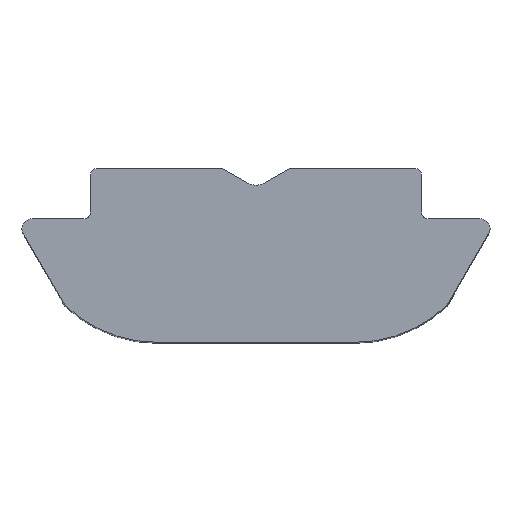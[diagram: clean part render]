
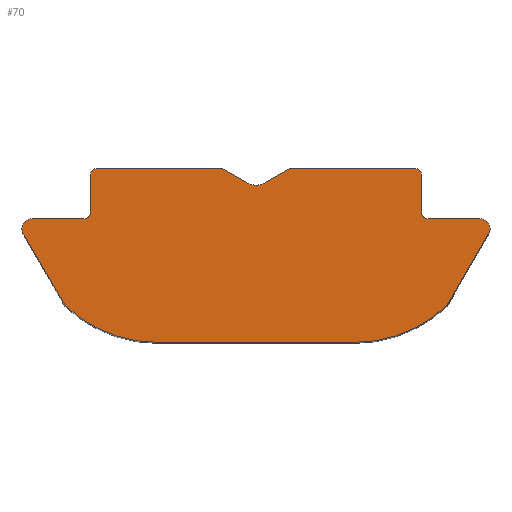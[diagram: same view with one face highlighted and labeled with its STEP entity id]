
A CAD part, top view. The second image highlights one B-rep face of the part: STEP entity #70.
In plain terms, the highlighted planar face has unit normal (0, 0, 1).
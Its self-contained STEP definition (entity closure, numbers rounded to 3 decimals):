
#70=ADVANCED_FACE('NONE',(#157),#158,.F.);
#157=FACE_OUTER_BOUND('',#258,.T.);
#158=PLANE('',#259);
#258=EDGE_LOOP('',(#409,#410,#411,#412,#413,#414,#415,#416,#417,#418,#419,#420,#421,#422,#423,#424,#425,#426,#427,#428,#429,#430,#431));
#259=AXIS2_PLACEMENT_3D('',#432,#433,#434);
#409=ORIENTED_EDGE('',*,*,#691,.T.);
#410=ORIENTED_EDGE('',*,*,#644,.T.);
#411=ORIENTED_EDGE('',*,*,#662,.T.);
#412=ORIENTED_EDGE('',*,*,#671,.T.);
#413=ORIENTED_EDGE('',*,*,#692,.T.);
#414=ORIENTED_EDGE('',*,*,#693,.T.);
#415=ORIENTED_EDGE('',*,*,#666,.T.);
#416=ORIENTED_EDGE('',*,*,#694,.T.);
#417=ORIENTED_EDGE('',*,*,#695,.T.);
#418=ORIENTED_EDGE('',*,*,#696,.T.);
#419=ORIENTED_EDGE('',*,*,#697,.T.);
#420=ORIENTED_EDGE('',*,*,#653,.T.);
#421=ORIENTED_EDGE('',*,*,#698,.T.);
#422=ORIENTED_EDGE('',*,*,#699,.T.);
#423=ORIENTED_EDGE('',*,*,#657,.T.);
#424=ORIENTED_EDGE('',*,*,#700,.T.);
#425=ORIENTED_EDGE('',*,*,#701,.T.);
#426=ORIENTED_EDGE('',*,*,#702,.T.);
#427=ORIENTED_EDGE('',*,*,#703,.T.);
#428=ORIENTED_EDGE('',*,*,#704,.T.);
#429=ORIENTED_EDGE('',*,*,#705,.T.);
#430=ORIENTED_EDGE('',*,*,#706,.T.);
#431=ORIENTED_EDGE('',*,*,#707,.T.);
#432=CARTESIAN_POINT('',(7.182,-2.158,9.5));
#433=DIRECTION('',(-0.0,-0.0,-1.0));
#434=DIRECTION('',(0.0,-1.0,0.0));
#644=EDGE_CURVE('NONE',#771,#769,#772,.T.);
#653=EDGE_CURVE('NONE',#777,#786,#788,.T.);
#657=EDGE_CURVE('NONE',#795,#793,#796,.T.);
#662=EDGE_CURVE('NONE',#769,#801,#803,.T.);
#666=EDGE_CURVE('NONE',#810,#808,#811,.T.);
#671=EDGE_CURVE('NONE',#801,#816,#818,.T.);
#691=EDGE_CURVE('NONE',#851,#771,#852,.T.);
#692=EDGE_CURVE('NONE',#816,#853,#854,.T.);
#693=EDGE_CURVE('NONE',#853,#810,#855,.T.);
#694=EDGE_CURVE('NONE',#808,#856,#857,.T.);
#695=EDGE_CURVE('NONE',#856,#858,#859,.T.);
#696=EDGE_CURVE('NONE',#858,#860,#861,.T.);
#697=EDGE_CURVE('NONE',#860,#777,#862,.T.);
#698=EDGE_CURVE('NONE',#786,#863,#864,.T.);
#699=EDGE_CURVE('NONE',#863,#795,#865,.T.);
#700=EDGE_CURVE('NONE',#793,#866,#867,.T.);
#701=EDGE_CURVE('NONE',#866,#868,#869,.T.);
#702=EDGE_CURVE('NONE',#868,#870,#871,.T.);
#703=EDGE_CURVE('NONE',#870,#872,#873,.T.);
#704=EDGE_CURVE('NONE',#872,#874,#875,.T.);
#705=EDGE_CURVE('NONE',#874,#876,#877,.T.);
#706=EDGE_CURVE('NONE',#876,#878,#879,.T.);
#707=EDGE_CURVE('NONE',#878,#851,#880,.T.);
#769=VERTEX_POINT('',#956);
#771=VERTEX_POINT('NONE',#959);
#772=CIRCLE('',#960,0.3);
#777=VERTEX_POINT('NONE',#966);
#786=VERTEX_POINT('NONE',#978);
#788=LINE('',#981,#982);
#793=VERTEX_POINT('NONE',#987);
#795=VERTEX_POINT('NONE',#990);
#796=CIRCLE('',#991,0.2);
#801=VERTEX_POINT('NONE',#997);
#803=CIRCLE('',#1000,0.3);
#808=VERTEX_POINT('NONE',#1005);
#810=VERTEX_POINT('NONE',#1008);
#811=CIRCLE('',#1009,0.2);
#816=VERTEX_POINT('NONE',#1016);
#818=LINE('',#1019,#1020);
#851=VERTEX_POINT('NONE',#1062);
#852=CIRCLE('',#1063,0.3);
#853=VERTEX_POINT('NONE',#1064);
#854=CIRCLE('',#1065,0.2);
#855=LINE('',#1066,#1067);
#856=VERTEX_POINT('NONE',#1068);
#857=LINE('',#1069,#1070);
#858=VERTEX_POINT('NONE',#1071);
#859=LINE('',#1072,#1073);
#860=VERTEX_POINT('NONE',#1074);
#861=CIRCLE('',#1075,0.5);
#862=LINE('',#1076,#1077);
#863=VERTEX_POINT('NONE',#1078);
#864=CIRCLE('',#1079,0.2);
#865=LINE('',#1080,#1081);
#866=VERTEX_POINT('NONE',#1082);
#867=LINE('',#1083,#1084);
#868=VERTEX_POINT('NONE',#1085);
#869=CIRCLE('',#1086,0.3);
#870=VERTEX_POINT('NONE',#1087);
#871=CIRCLE('',#1088,0.3);
#872=VERTEX_POINT('NONE',#1089);
#873=LINE('',#1090,#1091);
#874=VERTEX_POINT('NONE',#1092);
#875=CIRCLE('',#1093,4.0);
#876=VERTEX_POINT('NONE',#1094);
#877=LINE('',#1095,#1096);
#878=VERTEX_POINT('NONE',#1097);
#879=CIRCLE('',#1098,4.0);
#880=LINE('',#1099,#1100);
#956=CARTESIAN_POINT('',(7.0,-1.8,9.5));
#959=CARTESIAN_POINT('',(6.941,-1.979,9.5));
#960=AXIS2_PLACEMENT_3D('',#1269,#1270,#1271);
#966=CARTESIAN_POINT('',(-1.,0.0,9.5));
#978=CARTESIAN_POINT('',(-4.75,0.,9.5));
#981=CARTESIAN_POINT('',(-1.,0.0,9.5));
#982=VECTOR('',#1283,1000.0);
#987=CARTESIAN_POINT('',(-5.15,-1.5,9.5));
#990=CARTESIAN_POINT('',(-4.95,-1.3,9.5));
#991=AXIS2_PLACEMENT_3D('',#1288,#1289,#1290);
#997=CARTESIAN_POINT('',(6.7,-1.5,9.5));
#1000=AXIS2_PLACEMENT_3D('',#1296,#1297,#1298);
#1005=CARTESIAN_POINT('',(4.75,0.,9.5));
#1008=CARTESIAN_POINT('',(4.95,-0.2,9.5));
#1009=AXIS2_PLACEMENT_3D('',#1303,#1304,#1305);
#1016=CARTESIAN_POINT('',(5.15,-1.5,9.5));
#1019=CARTESIAN_POINT('',(5.15,-1.5,9.5));
#1020=VECTOR('',#1309,1000.0);
#1062=CARTESIAN_POINT('',(6.922,-2.008,9.5));
#1063=AXIS2_PLACEMENT_3D('',#1343,#1344,#1345);
#1064=CARTESIAN_POINT('',(4.95,-1.3,9.5));
#1065=AXIS2_PLACEMENT_3D('',#1346,#1347,#1348);
#1066=CARTESIAN_POINT('',(4.95,-0.2,9.5));
#1067=VECTOR('',#1349,1000.0);
#1068=CARTESIAN_POINT('',(1.0,0.,9.5));
#1069=CARTESIAN_POINT('',(4.75,0.,9.5));
#1070=VECTOR('',#1350,1000.0);
#1071=CARTESIAN_POINT('',(0.25,-0.433,9.5));
#1072=CARTESIAN_POINT('',(1.0,0.,9.5));
#1073=VECTOR('',#1351,1000.0);
#1074=CARTESIAN_POINT('',(-0.25,-0.433,9.5));
#1075=AXIS2_PLACEMENT_3D('',#1352,#1353,#1354);
#1076=CARTESIAN_POINT('',(-1.,0.0,9.5));
#1077=VECTOR('',#1355,1000.0);
#1078=CARTESIAN_POINT('',(-4.95,-0.2,9.5));
#1079=AXIS2_PLACEMENT_3D('',#1356,#1357,#1358);
#1080=CARTESIAN_POINT('',(-4.95,-0.2,9.5));
#1081=VECTOR('',#1359,1000.0);
#1082=CARTESIAN_POINT('',(-6.7,-1.5,9.5));
#1083=CARTESIAN_POINT('',(-5.15,-1.5,9.5));
#1084=VECTOR('',#1360,1000.0);
#1085=CARTESIAN_POINT('',(-7.0,-1.8,9.5));
#1086=AXIS2_PLACEMENT_3D('',#1361,#1362,#1363);
#1087=CARTESIAN_POINT('',(-6.932,-1.99,9.5));
#1088=AXIS2_PLACEMENT_3D('',#1364,#1365,#1366);
#1089=CARTESIAN_POINT('',(-5.725,-4.081,9.5));
#1090=CARTESIAN_POINT('',(-6.932,-1.99,9.5));
#1091=VECTOR('',#1367,1000.0);
#1092=CARTESIAN_POINT('',(-2.95,-5.2,9.5));
#1093=AXIS2_PLACEMENT_3D('',#1368,#1369,#1370);
#1094=CARTESIAN_POINT('',(2.95,-5.2,9.5));
#1095=CARTESIAN_POINT('',(-2.95,-5.2,9.5));
#1096=VECTOR('',#1371,1000.0);
#1097=CARTESIAN_POINT('',(5.725,-4.081,9.5));
#1098=AXIS2_PLACEMENT_3D('',#1372,#1373,#1374);
#1099=CARTESIAN_POINT('',(6.922,-2.008,9.5));
#1100=VECTOR('',#1375,1000.0);
#1269=CARTESIAN_POINT('',(6.7,-1.8,9.5));
#1270=DIRECTION('',(0.0,0.0,1.0));
#1271=DIRECTION('',(-1.0,0.0,0.0));
#1283=DIRECTION('',(-1.0,0.,0.0));
#1288=CARTESIAN_POINT('',(-5.15,-1.3,9.5));
#1289=DIRECTION('',(0.0,0.0,-1.0));
#1290=DIRECTION('',(-1.0,0.0,0.0));
#1296=CARTESIAN_POINT('',(6.7,-1.8,9.5));
#1297=DIRECTION('',(0.0,0.0,1.0));
#1298=DIRECTION('',(-1.0,0.0,0.0));
#1303=CARTESIAN_POINT('',(4.75,-0.2,9.5));
#1304=DIRECTION('',(0.0,0.0,1.0));
#1305=DIRECTION('',(1.0,0.0,0.0));
#1309=DIRECTION('',(-1.0,-0.0,-0.0));
#1343=CARTESIAN_POINT('',(7.182,-2.158,9.5));
#1344=DIRECTION('',(0.0,0.0,-1.0));
#1345=DIRECTION('',(-1.0,0.0,0.0));
#1346=CARTESIAN_POINT('',(5.15,-1.3,9.5));
#1347=DIRECTION('',(0.0,0.0,-1.0));
#1348=DIRECTION('',(1.0,0.0,0.0));
#1349=DIRECTION('',(0.,1.0,-0.0));
#1350=DIRECTION('',(-1.0,0.,0.0));
#1351=DIRECTION('',(-0.866,-0.5,0.0));
#1352=CARTESIAN_POINT('',(0.,0.,9.5));
#1353=DIRECTION('',(0.0,0.0,-1.0));
#1354=DIRECTION('',(1.0,0.0,0.0));
#1355=DIRECTION('',(-0.866,0.5,-0.0));
#1356=CARTESIAN_POINT('',(-4.75,-0.2,9.5));
#1357=DIRECTION('',(0.0,0.0,1.0));
#1358=DIRECTION('',(1.0,0.0,0.0));
#1359=DIRECTION('',(0.0,-1.0,0.0));
#1360=DIRECTION('',(-1.0,0.,0.0));
#1361=CARTESIAN_POINT('',(-6.7,-1.8,9.5));
#1362=DIRECTION('',(0.0,0.0,1.0));
#1363=DIRECTION('',(1.0,0.0,0.0));
#1364=CARTESIAN_POINT('',(-6.7,-1.8,9.5));
#1365=DIRECTION('',(0.0,0.0,1.0));
#1366=DIRECTION('',(1.0,0.0,0.0));
#1367=DIRECTION('',(0.5,-0.866,0.0));
#1368=CARTESIAN_POINT('',(-2.95,-1.2,9.5));
#1369=DIRECTION('',(0.0,0.0,1.0));
#1370=DIRECTION('',(1.0,0.0,0.0));
#1371=DIRECTION('',(1.0,0.,0.0));
#1372=CARTESIAN_POINT('',(2.95,-1.2,9.5));
#1373=DIRECTION('',(0.0,0.0,1.0));
#1374=DIRECTION('',(-1.0,0.0,0.0));
#1375=DIRECTION('',(0.5,0.866,-0.0));
